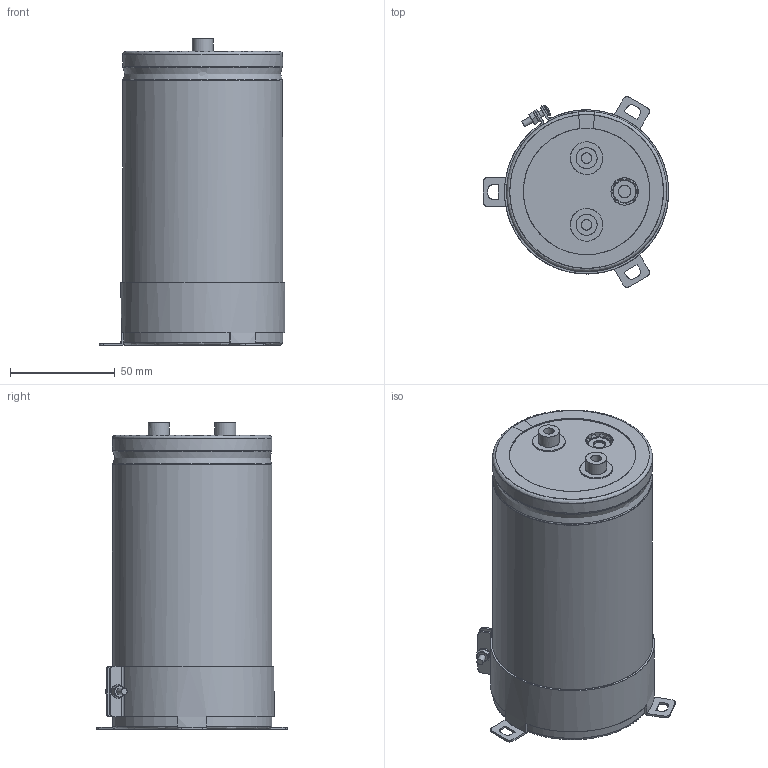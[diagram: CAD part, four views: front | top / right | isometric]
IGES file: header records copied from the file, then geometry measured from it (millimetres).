
Start section: JAMA-IS VERSION  1.0
Bounding box: 88.3 x 90.75 x 146 mm (x, y, z)
Surface area: 130725.5 mm2 (no closed solid volume)
Topology: 0 solids, 0 shells, 259 faces, 4448 edges, 4417 vertices
Faces by surface type: bspline 259
